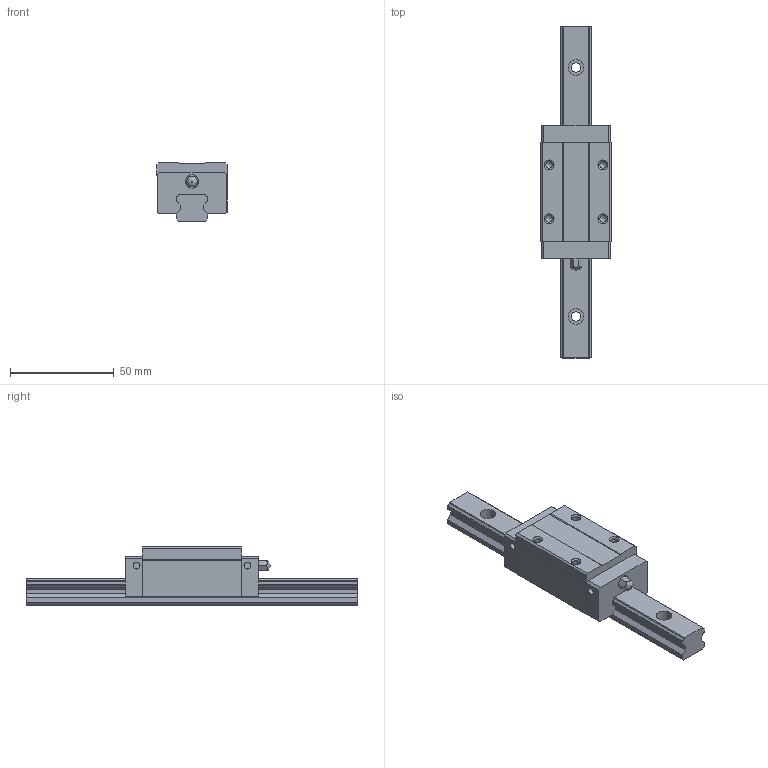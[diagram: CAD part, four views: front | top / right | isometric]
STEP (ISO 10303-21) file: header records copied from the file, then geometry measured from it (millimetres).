
FILE_DESCRIPTION(/* description */ (''),/* implementation_level */ '2;1');
FILE_NAME(/* name */ 'SME15-SA',/* time_stamp */ '2009-06-12T14:18:15+08:00',/* author */ (''),/* organization */ (''),/* preprocessor_version */ 'ST-DEVELOPER v11',/* originating_system */ 'UGS - NX 5.0',/* authorisation */ '');
FILE_SCHEMA (('CONFIG_CONTROL_DESIGN'));
Length unit declared in the file: millimetre
Products named in the file (1): jill3C1A4256
Bounding box: 34 x 160 x 28 mm (x, y, z)
Volume: 68572.4 mm3; surface area: 20951.9 mm2
Topology: 2 solids, 3 shells, 132 faces, 354 edges, 236 vertices
Faces by surface type: plane 76, cylinder 44, cone 8, sphere 2, bspline 2
Full cylindrical faces by diameter (mm): 3.3 x8, 4 x7, 4.5 x3, 6.5 x2, 7.5 x3
Entity records: 5504 total; most frequent: CARTESIAN_POINT 2419, DIRECTION 618, ORIENTED_EDGE 580, EDGE_CURVE 290, AXIS2_PLACEMENT_3D 211, VERTEX_POINT 210, LINE 196, VECTOR 196
